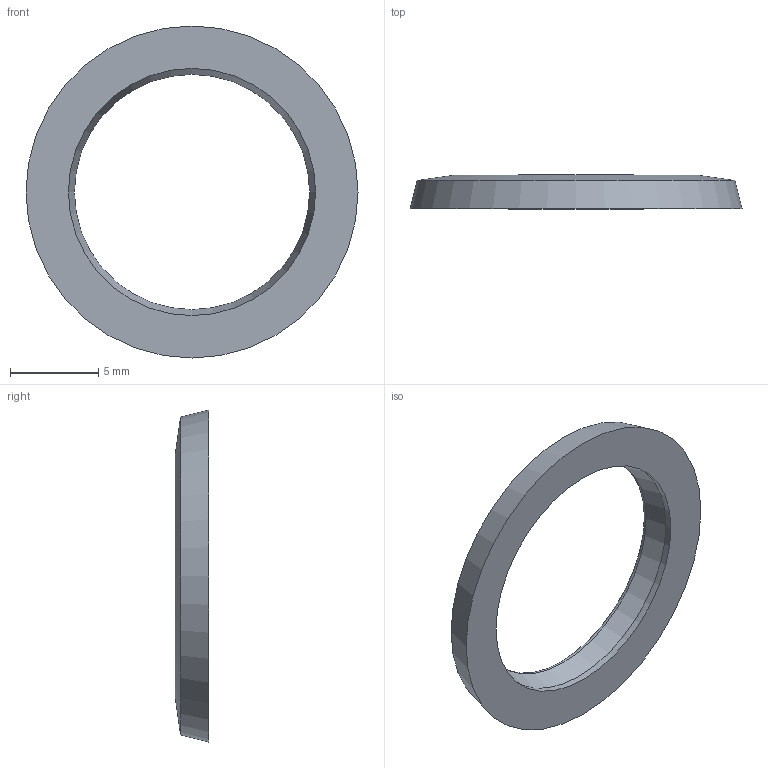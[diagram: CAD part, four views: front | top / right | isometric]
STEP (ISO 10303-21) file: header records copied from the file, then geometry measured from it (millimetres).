
FILE_DESCRIPTION( ( 'STEP AP203' ), '1' );
FILE_NAME( 'C:/Temp/Ganter_Step_05_03_2020/data/3_5/gn7600/Sealing ring GN 7600-18-14-2-HNBR-85.stp', '2020-03-12T13:43:51', ( 'License CC BY-ND 4.0' ), ( 'CADENAS' ), ' ', 'PARTsolutions', ' ' );
FILE_SCHEMA( ( 'CONFIG_CONTROL_DESIGN' ) );
Length unit declared in the file: millimetre
Products named in the file (1): _Sealing ring GN 7600-18-14-2-HNBR-85
Bounding box: 18.8 x 1.9 x 18.8 mm (x, y, z)
Volume: 205.1 mm3; surface area: 415.3 mm2
Topology: 1 solids, 1 shells, 6 faces, 11 edges, 6 vertices
Faces by surface type: cone 3, torus 1, cylinder 1, plane 1
Full cylindrical faces by diameter (mm): 14 x1
Entity records: 172 total; most frequent: DIRECTION 26, CARTESIAN_POINT 19, AXIS2_PLACEMENT_3D 13, EDGE_LOOP 12, ORIENTED_EDGE 12, FACE_OUTER_BOUND 8, ADVANCED_FACE 6, EDGE_CURVE 6
